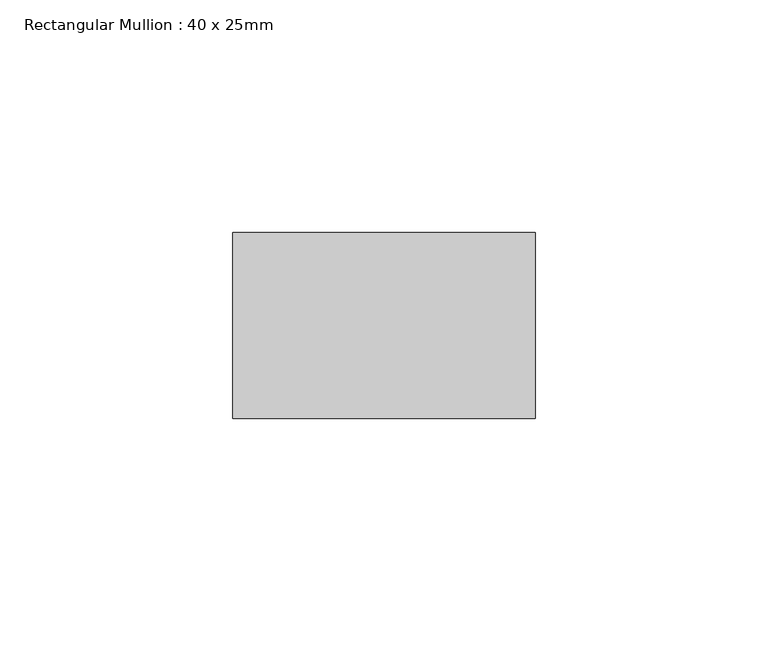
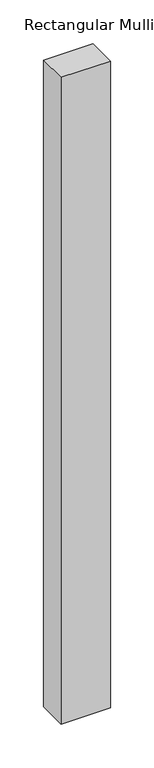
"""IFC4 building model written with IfcOpenShell, lengths in millimetres: member geometry, Rectangular Mullion : 40 x 25mm."""

import ifcopenshell
import ifcopenshell.guid

model = None  # the IFC model being written
_history = None  # IfcOwnerHistory: only IFC2X3 demands one
_inside = {}  # id of a spatial element -> (the spatial element, [elements in it])
_under = {}  # id of a project, library or spatial element -> (it, [spatial elements below it])
_declared = {}  # id of a project -> (the project, [libraries it declares])
_typed = {}  # id of a type object -> (the type object, [elements of that type])
_made_of = {}  # id of a material, layer set ... -> (it, [elements and type objects made of it])


def new_model(schema):
    """Start an empty IFC model of exactly this schema.

    Asked for "IFC4X3", IfcOpenShell would pick the latest addendum, in which some entities
    have other attributes; the version numbers below select the first issue.
    IFC2X3 requires an IfcOwnerHistory on every rooted entity: one is made here for all.
    """
    global model, _history
    if schema == "IFC4X3":
        model = ifcopenshell.file(schema_version=(4, 3, 0, 0))
    else:
        model = ifcopenshell.file(schema=schema)
    _inside.clear()
    _under.clear()
    _declared.clear()
    _typed.clear()
    _made_of.clear()
    _history = None
    if model.schema == "IFC2X3":
        org = make("IfcOrganization", Name="unknown")
        user = make(
            "IfcPersonAndOrganization",
            ThePerson=make("IfcPerson", FamilyName="unknown"),
            TheOrganization=org,
        )
        app = make(
            "IfcApplication",
            ApplicationDeveloper=org,
            Version="unknown",
            ApplicationFullName="unknown",
            ApplicationIdentifier="unknown",
        )
        _history = make(
            "IfcOwnerHistory",
            OwningUser=user,
            OwningApplication=app,
            ChangeAction="ADDED",
            CreationDate=0,
        )
    return model


def make(cls, **values):
    """One entity of the class cls with the attributes given. An attribute that is None is left unset."""
    return model.create_entity(
        cls, **{name: value for name, value in values.items() if value is not None}
    )


def rooted(cls, **values):
    """An entity with a GlobalId (a new one), such as an element, a storey or a relation."""
    return make(cls, GlobalId=ifcopenshell.guid.new(), OwnerHistory=_history, **values)


def si_unit(unit_type, name, prefix=None):
    """IfcSIUnit, for example si_unit("LENGTHUNIT", "METRE", prefix="MILLI")."""
    return make("IfcSIUnit", UnitType=unit_type, Prefix=prefix, Name=name)


def assignment(units):
    """IfcUnitAssignment: the units of a project."""
    return None if units is None else make("IfcUnitAssignment", Units=units)


def point(xyz):
    """IfcCartesianPoint."""
    return None if xyz is None else make("IfcCartesianPoint", Coordinates=xyz)


def direction(xyz):
    """IfcDirection."""
    return None if xyz is None else make("IfcDirection", DirectionRatios=xyz)


def frame(location, z_axis=None, x_axis=None):
    """IfcAxis2Placement3D, a coordinate frame: its origin and axes. An axis left out is left unset."""
    return make(
        "IfcAxis2Placement3D",
        Location=point(location),
        Axis=direction(z_axis),
        RefDirection=direction(x_axis),
    )


def origin():
    """The frame at (0, 0, 0) with its axes left unset."""
    return frame((0.0, 0.0, 0.0))


def place(relative_to, where):
    """IfcLocalPlacement: puts the frame where relative to a parent placement (None: the world)."""
    return make(
        "IfcLocalPlacement", PlacementRelTo=relative_to, RelativePlacement=where
    )


def context(
    kind, dimensions, precision=None, world=None, true_north=None, identifier=None
):
    """IfcGeometricRepresentationContext, for example the 3D "Model" context."""
    return make(
        "IfcGeometricRepresentationContext",
        ContextIdentifier=identifier,
        ContextType=kind,
        CoordinateSpaceDimension=dimensions,
        Precision=precision,
        WorldCoordinateSystem=world,
        TrueNorth=true_north,
    )


def project(units=None, contexts=None):
    """IfcProject with its units and contexts."""
    return rooted(
        "IfcProject",
        Name="project",
        RepresentationContexts=contexts,
        UnitsInContext=assignment(units),
    )


def spatial(cls, under=None, at=None, **own):
    """A site, building, storey or space (cls), placed at a placement, below another one or the project."""
    s = rooted(cls, ObjectPlacement=at, **own)
    if under is not None:
        _under.setdefault(under.id(), (under, []))[1].append(s)
    return s


def polyline(points):
    """IfcPolyline through the points."""
    return make("IfcPolyline", Points=[point(p) for p in points])


def outline(outer, holes=None, kind="AREA"):
    """IfcArbitraryClosedProfileDef: a profile drawn as a closed curve; with holes, ...WithVoids."""
    if holes is None:
        return make("IfcArbitraryClosedProfileDef", ProfileType=kind, OuterCurve=outer)
    return make(
        "IfcArbitraryProfileDefWithVoids",
        ProfileType=kind,
        OuterCurve=outer,
        InnerCurves=holes,
    )


def extrude(swept, where, along, depth):
    """IfcExtrudedAreaSolid: the profile swept, set in the frame where, extruded along a direction by depth."""
    return make(
        "IfcExtrudedAreaSolid",
        SweptArea=swept,
        Position=where,
        ExtrudedDirection=direction(along),
        Depth=depth,
    )


def shape(context_of_items, identifier, shape_type, items):
    """IfcShapeRepresentation: the items that make up one representation, for example the "Body"."""
    return make(
        "IfcShapeRepresentation",
        ContextOfItems=context_of_items,
        RepresentationIdentifier=identifier,
        RepresentationType=shape_type,
        Items=items,
    )


def source(mapping_origin, context_of_items, identifier, shape_type, items):
    """IfcRepresentationMap: a shape defined once, which mapped items show again and again."""
    return make(
        "IfcRepresentationMap",
        MappingOrigin=mapping_origin,
        MappedRepresentation=shape(context_of_items, identifier, shape_type, items),
    )


def transform(
    local_origin,
    x_axis=None,
    y_axis=None,
    z_axis=None,
    scale=None,
    scale2=None,
    scale3=None,
    uniform=True,
):
    """IfcCartesianTransformationOperator3D, or its non-uniform kind. x_axis, y_axis, z_axis: its Axis1, 2, 3."""
    if uniform:
        return make(
            "IfcCartesianTransformationOperator3D",
            Axis1=direction(x_axis),
            Axis2=direction(y_axis),
            LocalOrigin=point(local_origin),
            Scale=scale,
            Axis3=direction(z_axis),
        )
    return make(
        "IfcCartesianTransformationOperator3DnonUniform",
        Axis1=direction(x_axis),
        Axis2=direction(y_axis),
        LocalOrigin=point(local_origin),
        Scale=scale,
        Axis3=direction(z_axis),
        Scale2=scale2,
        Scale3=scale3,
    )


def mapped(mapping_source, mapping_target):
    """IfcMappedItem: shows the shape of a source again, moved by a transform."""
    return make(
        "IfcMappedItem", MappingSource=mapping_source, MappingTarget=mapping_target
    )


def made_of(thing, what):
    """Note that an element or type object is made of a material, layer set ...; save() writes the relation."""
    if what is not None:
        _made_of.setdefault(what.id(), (what, []))[1].append(thing)
    return thing


def element(
    cls,
    number,
    at=None,
    inside=None,
    cuts=None,
    type_object=None,
    material=None,
    context=None,
    identifier="Body",
    shape_type=None,
    held_by="IfcProductDefinitionShape",
    body=None,
    shapes=None,
    **own,
):
    """One element of the class cls, such as IfcWall. Its Tag is "e" and its number.

    at: its placement. inside: the storey or other place that contains it. cuts: it is an
    opening in that element (IfcRelVoidsElement). A single representation is given by context,
    identifier, shape_type and body (its items); several are given by shapes. held_by: the class
    of the entity that holds the representations. save() writes the other relations.
    """
    e = rooted(cls, Tag="e%d" % number, ObjectPlacement=at, **own)
    if body is not None:
        shapes = [shape(context, identifier, shape_type, body)]
    if shapes is not None:
        e.Representation = make(held_by, Representations=shapes)
    if inside is not None:
        _inside.setdefault(inside.id(), (inside, []))[1].append(e)
    if cuts is not None:
        rooted(
            "IfcRelVoidsElement", RelatingBuildingElement=cuts, RelatedOpeningElement=e
        )
    if type_object is not None:
        _typed.setdefault(type_object.id(), (type_object, []))[1].append(e)
    return made_of(e, material)


def aggregate(whole, parts):
    """IfcRelAggregates: a whole, such as a stair, and the parts it consists of."""
    return rooted("IfcRelAggregates", RelatingObject=whole, RelatedObjects=parts)


def save(model, path):
    """Write the relations noted so far, then the file.

    IfcRelAggregates (storeys below a building ...), IfcRelContainedInSpatialStructure (elements
    in a storey), IfcRelDefinesByType, IfcRelAssociatesMaterial and IfcRelDeclares: one each for
    every whole, place, type object, material and project.
    """
    for whole, parts in _under.values():
        aggregate(whole, parts)
    for where, things in _inside.values():
        rooted(
            "IfcRelContainedInSpatialStructure",
            RelatedElements=things,
            RelatingStructure=where,
        )
    for kind, things in _typed.values():
        rooted("IfcRelDefinesByType", RelatedObjects=things, RelatingType=kind)
    for what, things in _made_of.values():
        rooted("IfcRelAssociatesMaterial", RelatedObjects=things, RelatingMaterial=what)
    for by, libraries in _declared.values():
        rooted("IfcRelDeclares", RelatingContext=by, RelatedDefinitions=libraries)
    model.write(path)


def rectangular_mullion_40_x_25mm_99b5177c(model_context):
    return source(origin(), model_context, "Body", "SweptSolid", [
        extrude(outline(polyline([(40.0, -20.0), (40.0, -60.0), (-25.0, -60.0), (-25.0, -20.0), (40.0, -20.0)])), frame((0.0, 0.0, -901.6666667), z_axis=(0.0, 0.0, 1.0), x_axis=(1.0, 0.0, 0.0)), (0.0, 0.0, 1.0), 901.6666667),
    ])


if __name__ == "__main__":
    model = new_model("IFC4")
    model_context = context("Model", 3, world=origin())
    ifc_project = project(units=[si_unit("LENGTHUNIT", "METRE", prefix="MILLI")], contexts=[model_context])
    site = spatial("IfcSite", under=ifc_project)
    building = spatial("IfcBuilding", under=site)
    placement = place(None, origin())
    rectangular_mullion_40_x_25mm_shape = rectangular_mullion_40_x_25mm_99b5177c(model_context)
    element("IfcMember", 1, ObjectType="Rectangular Mullion : 40 x 25mm", at=placement, inside=building, context=model_context, shape_type="MappedRepresentation", body=[
        mapped(rectangular_mullion_40_x_25mm_shape, transform((0.0, 0.0, 0.0), x_axis=(1.0, 0.0, 0.0), y_axis=(0.0, 1.0, 0.0), z_axis=(0.0, 0.0, 1.0))),
    ])
    save(model, "model.ifc")
